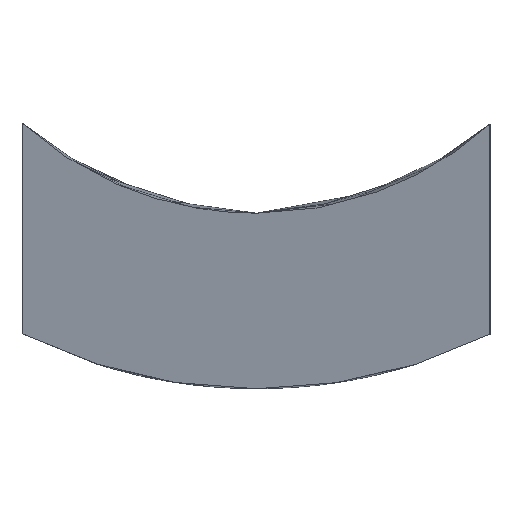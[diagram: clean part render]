
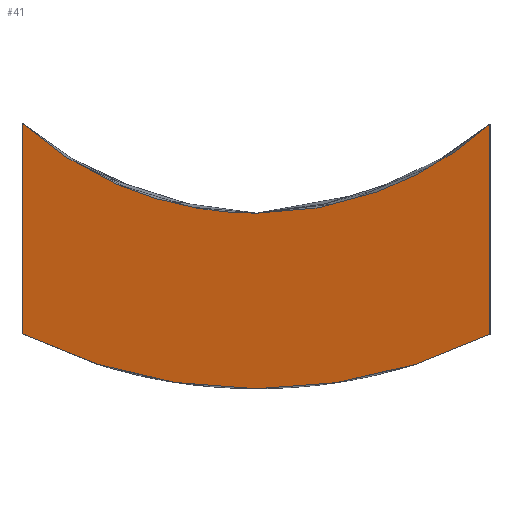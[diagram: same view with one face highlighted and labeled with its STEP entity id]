
A CAD part, left-side view. The second image highlights one B-rep face of the part: STEP entity #41.
In plain terms, the highlighted planar face has unit normal (-0.966, 0.259, 0).
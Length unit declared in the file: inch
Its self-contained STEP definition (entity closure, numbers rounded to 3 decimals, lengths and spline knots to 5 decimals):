
#41=ADVANCED_FACE('',(#85),#86,.F.);
#85=FACE_OUTER_BOUND('',#143,.T.);
#86=PLANE('',#144);
#143=EDGE_LOOP('',(#232,#233,#234,#235,#236,#237));
#144=AXIS2_PLACEMENT_3D('',#238,#239,#240);
#232=ORIENTED_EDGE('',*,*,#328,.F.);
#233=ORIENTED_EDGE('',*,*,#329,.F.);
#234=ORIENTED_EDGE('',*,*,#314,.F.);
#235=ORIENTED_EDGE('',*,*,#330,.F.);
#236=ORIENTED_EDGE('',*,*,#331,.T.);
#237=ORIENTED_EDGE('',*,*,#332,.F.);
#238=CARTESIAN_POINT('',(0.06699,0.25,0.00103));
#239=DIRECTION('',(0.966,-0.259,0.0));
#240=DIRECTION('',(-0.259,-0.966,0.0));
#314=EDGE_CURVE('',#363,#364,#365,.T.);
#328=EDGE_CURVE('',#388,#389,#390,.T.);
#329=EDGE_CURVE('',#364,#388,#391,.T.);
#330=EDGE_CURVE('',#392,#363,#393,.T.);
#331=EDGE_CURVE('',#392,#394,#395,.T.);
#332=EDGE_CURVE('',#389,#394,#396,.T.);
#363=VERTEX_POINT('',#436);
#364=VERTEX_POINT('',#437);
#365=B_SPLINE_CURVE_WITH_KNOTS('',3,(#438,#439,#440,#441,#442,#443),.UNSPECIFIED.,.F.,.F.,(4,2,4),(-0.26851,-0.13159,-0.0),.UNSPECIFIED.);
#388=VERTEX_POINT('',#515);
#389=VERTEX_POINT('',#516);
#390=B_SPLINE_CURVE_WITH_KNOTS('',3,(#517,#518,#519,#520,#521,#522),.UNSPECIFIED.,.F.,.F.,(4,2,4),(-0.2841,-0.14482,-0.0),.UNSPECIFIED.);
#391=LINE('',#523,#524);
#392=VERTEX_POINT('',#525);
#393=B_SPLINE_CURVE_WITH_KNOTS('',3,(#526,#527,#528,#529,#530,#531),.UNSPECIFIED.,.F.,.F.,(4,2,4),(-0.26741,-0.13614,-0.0),.UNSPECIFIED.);
#394=VERTEX_POINT('',#532);
#395=LINE('',#533,#534);
#396=B_SPLINE_CURVE_WITH_KNOTS('',3,(#535,#536,#537,#538,#539,#540),.UNSPECIFIED.,.F.,.F.,(4,2,4),(-0.28172,-0.13795,-0.0),.UNSPECIFIED.);
#436=CARTESIAN_POINT('',(0.06684,0.24942,-0.28258));
#437=CARTESIAN_POINT('',(0.13398,0.5,-0.22387));
#438=CARTESIAN_POINT('',(0.06684,0.24942,-0.28258));
#439=CARTESIAN_POINT('',(0.07866,0.29355,-0.28258));
#440=CARTESIAN_POINT('',(0.09042,0.33743,-0.2775));
#441=CARTESIAN_POINT('',(0.113,0.42172,-0.25742));
#442=CARTESIAN_POINT('',(0.12375,0.46182,-0.24289));
#443=CARTESIAN_POINT('',(0.13398,0.5,-0.22387));
#515=CARTESIAN_POINT('',(0.13398,0.5,0.00103));
#516=CARTESIAN_POINT('',(0.06684,0.24942,-0.09508));
#517=CARTESIAN_POINT('',(0.13398,0.5,0.00103));
#518=CARTESIAN_POINT('',(0.12493,0.46624,-0.02934));
#519=CARTESIAN_POINT('',(0.11455,0.42748,-0.05322));
#520=CARTESIAN_POINT('',(0.09165,0.34204,-0.08657));
#521=CARTESIAN_POINT('',(0.07933,0.29605,-0.09508));
#522=CARTESIAN_POINT('',(0.06684,0.24942,-0.09508));
#523=CARTESIAN_POINT('',(0.13398,0.5,-0.0552));
#524=VECTOR('',#673,1.0);
#525=CARTESIAN_POINT('',(0.,0.,-0.22444));
#526=CARTESIAN_POINT('',(0.,0.,-0.22444));
#527=CARTESIAN_POINT('',(0.01021,0.03809,-0.24331));
#528=CARTESIAN_POINT('',(0.02092,0.07809,-0.25771));
#529=CARTESIAN_POINT('',(0.0434,0.16198,-0.27756));
#530=CARTESIAN_POINT('',(0.05509,0.20559,-0.28258));
#531=CARTESIAN_POINT('',(0.06684,0.24942,-0.28258));
#532=CARTESIAN_POINT('',(0.,0.,0.));
#533=CARTESIAN_POINT('',(0.,0.,-0.07174));
#534=VECTOR('',#674,1.0);
#535=CARTESIAN_POINT('',(0.06684,0.24942,-0.09508));
#536=CARTESIAN_POINT('',(0.0544,0.203,-0.09508));
#537=CARTESIAN_POINT('',(0.04213,0.15721,-0.08664));
#538=CARTESIAN_POINT('',(0.01935,0.07221,-0.05362));
#539=CARTESIAN_POINT('',(0.00902,0.03365,-0.03002));
#540=CARTESIAN_POINT('',(0.,0.,0.));
#673=DIRECTION('',(0.0,0.0,1.0));
#674=DIRECTION('',(0.,0.0,1.0));
